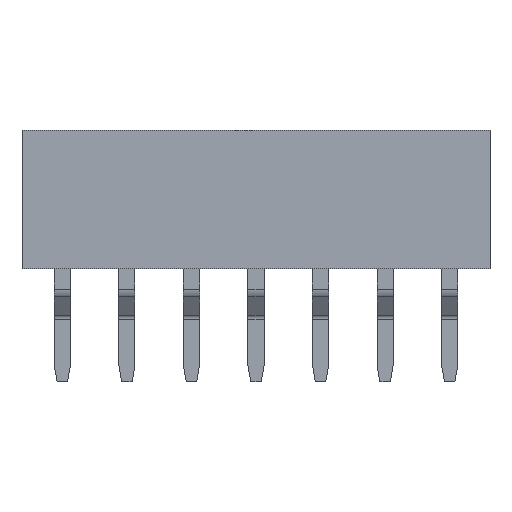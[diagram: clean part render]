
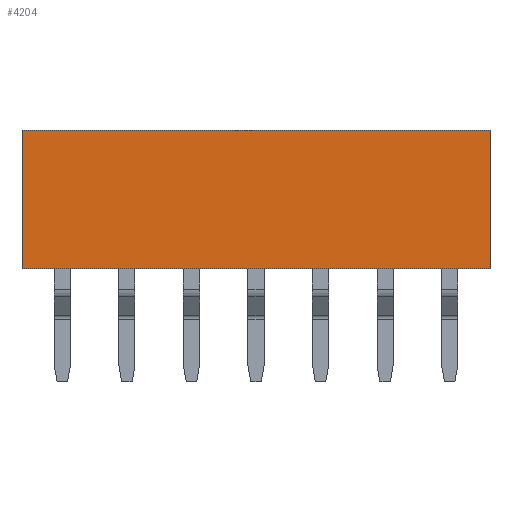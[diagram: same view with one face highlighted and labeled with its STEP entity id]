
A CAD part, top view. The second image highlights one B-rep face of the part: STEP entity #4204.
In plain terms, the highlighted planar face has unit normal (0, 0, 1).
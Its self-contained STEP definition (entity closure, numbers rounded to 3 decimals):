
#50 = DIRECTION ( 'NONE',  ( -1., 0., 0. ) ) ;
#89 = CARTESIAN_POINT ( 'NONE',  ( 13.775, 1.955, 1.2 ) ) ;
#471 = EDGE_CURVE ( 'NONE', #2625, #672, #3638, .T. ) ;
#483 = LINE ( 'NONE', #2233, #2623 ) ;
#599 = EDGE_CURVE ( 'NONE', #672, #4848, #5165, .T. ) ;
#603 = CARTESIAN_POINT ( 'NONE',  ( -0.725, 1.955, 1.2 ) ) ;
#672 = VERTEX_POINT ( 'NONE', #687 ) ;
#678 = VERTEX_POINT ( 'NONE', #2836 ) ;
#687 = CARTESIAN_POINT ( 'NONE',  ( -0.725, -2.345, 1.2 ) ) ;
#783 = DIRECTION ( 'NONE',  ( 1., 0., 0. ) ) ;
#912 = AXIS2_PLACEMENT_3D ( 'NONE', #5414, #4586, #4203 ) ;
#1883 = ORIENTED_EDGE ( 'NONE', *, *, #3968, .F. ) ;
#2033 = PLANE ( 'NONE',  #912 ) ;
#2112 = VECTOR ( 'NONE', #783, 1000. ) ;
#2233 = CARTESIAN_POINT ( 'NONE',  ( -0.725, 1.955, 1.2 ) ) ;
#2331 = LINE ( 'NONE', #89, #3471 ) ;
#2623 = VECTOR ( 'NONE', #50, 1000. ) ;
#2625 = VERTEX_POINT ( 'NONE', #2954 ) ;
#2728 = DIRECTION ( 'NONE',  ( 0., -1., 0. ) ) ;
#2836 = CARTESIAN_POINT ( 'NONE',  ( 13.775, 1.955, 1.2 ) ) ;
#2954 = CARTESIAN_POINT ( 'NONE',  ( -0.725, 1.955, 1.2 ) ) ;
#3257 = EDGE_CURVE ( 'NONE', #678, #2625, #483, .T. ) ;
#3471 = VECTOR ( 'NONE', #2728, 1000. ) ;
#3555 = VECTOR ( 'NONE', #4891, 1000. ) ;
#3569 = CARTESIAN_POINT ( 'NONE',  ( 13.775, -2.345, 1.2 ) ) ;
#3638 = LINE ( 'NONE', #603, #3555 ) ;
#3732 = ORIENTED_EDGE ( 'NONE', *, *, #471, .T. ) ;
#3968 = EDGE_CURVE ( 'NONE', #678, #4848, #2331, .T. ) ;
#4102 = EDGE_LOOP ( 'NONE', ( #4171, #1883, #5320, #3732 ) ) ;
#4148 = CARTESIAN_POINT ( 'NONE',  ( -0.725, -2.345, 1.2 ) ) ;
#4171 = ORIENTED_EDGE ( 'NONE', *, *, #599, .T. ) ;
#4203 = DIRECTION ( 'NONE',  ( 1., 0., 0. ) ) ;
#4204 = ADVANCED_FACE ( 'NONE', ( #4614 ), #2033, .T. ) ;
#4586 = DIRECTION ( 'NONE',  ( 0., 0., 1. ) ) ;
#4614 = FACE_OUTER_BOUND ( 'NONE', #4102, .T. ) ;
#4848 = VERTEX_POINT ( 'NONE', #3569 ) ;
#4891 = DIRECTION ( 'NONE',  ( 0., -1., 0. ) ) ;
#5165 = LINE ( 'NONE', #4148, #2112 ) ;
#5320 = ORIENTED_EDGE ( 'NONE', *, *, #3257, .T. ) ;
#5414 = CARTESIAN_POINT ( 'NONE',  ( 0., 0., 1.2 ) ) ;
